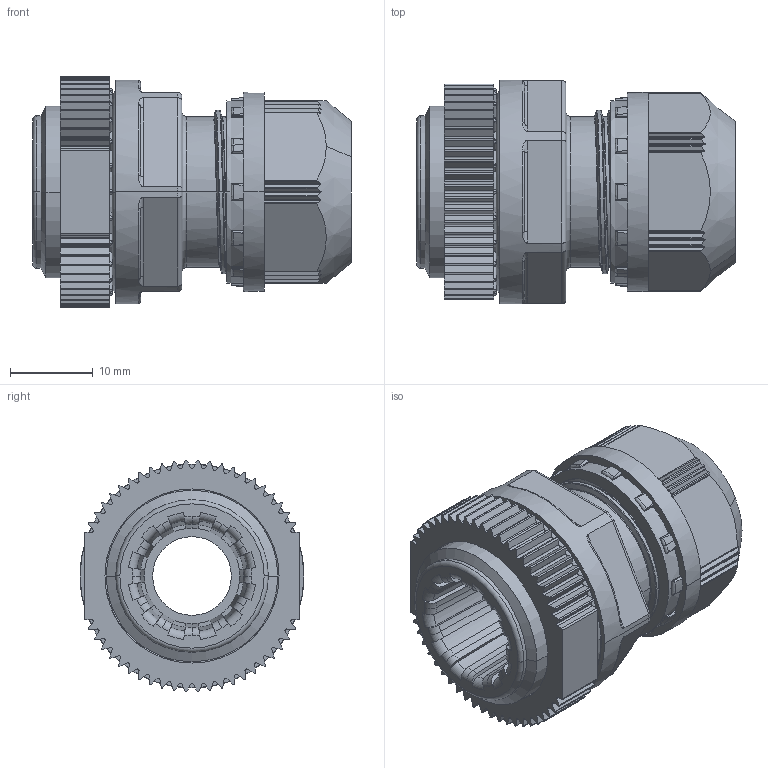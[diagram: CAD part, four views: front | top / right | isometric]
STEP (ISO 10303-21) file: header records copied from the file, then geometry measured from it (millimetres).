
FILE_DESCRIPTION(('CoCreate Modeling STEP Export'),'2;1');
FILE_NAME('OA-W1609_公開データ.stp','2011-07-14T11:12:42',(''),(''),'CoCreate Modeling STEP processor for AP214 (Solid Model)','CoCreate Modeling 17.00A 17-Jun-2010 (C) Parametric Technology GmbH','');
FILE_SCHEMA(('AUTOMOTIVE_DESIGN { 1 0 10303 214 1 1 1 1 }'));
Length unit declared in the file: millimetre
Products named in the file (5): OA-W1609; ゴムブッシュ; ﾛｯｸﾅｯﾄ
Assembly tree (2 placements, depth 2):
  OA-W1609
    OA-W1609
  ゴムブッシュ
  ﾛｯｸﾅｯﾄ
    ﾛｯｸﾅｯﾄ
Bounding box: 38.41 x 27 x 27.96 mm (x, y, z)
Volume: 12612.7 mm3; surface area: 9710.6 mm2
Topology: 3 solids, 3 shells, 1011 faces, 2789 edges, 1737 vertices
Faces by surface type: cylinder 425, plane 343, torus 78, cone 60, sphere 57, bspline 48
Entity records: 42223 total; most frequent: CARTESIAN_POINT 19013, ORIENTED_EDGE 5464, DIRECTION 4103, EDGE_CURVE 2732, VERTEX_POINT 1737, AXIS2_PLACEMENT_3D 1429, VECTOR 1245, LINE 1245
